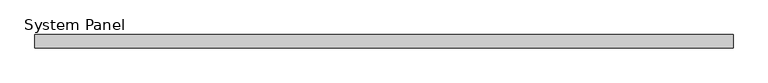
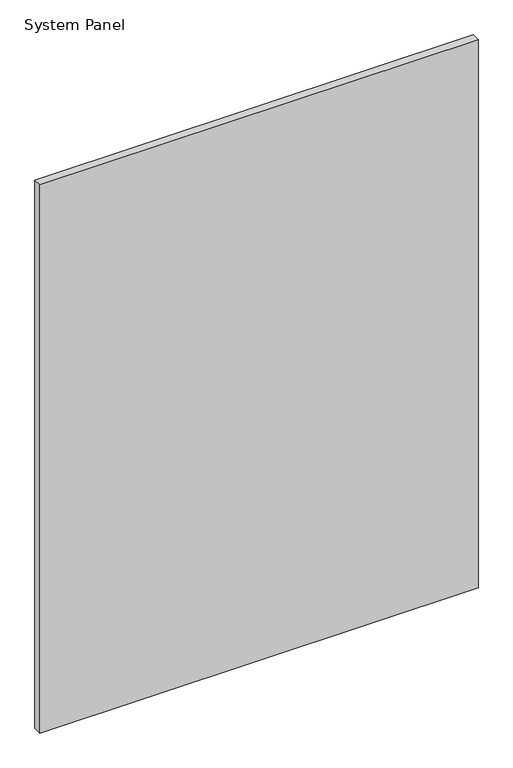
"""IFC4 building model written with IfcOpenShell, lengths in millimetres: plate geometry, System Panel : Panel_Glazed_Generic Showcase_30mm."""

from ifc_helpers import new_model, si_unit, origin, origin_with_axes, place, context, project, spatial, polyline, outline, extrude, source, transform, mapped, element, save


def system_panel_043df903(model_context):
    return source(origin(), model_context, "Body", "SweptSolid", [
        extrude(outline(polyline([(775.0, -30.0), (-775.0, -30.0), (-775.0, 0.0), (775.0, 0.0), (775.0, -30.0)])), origin_with_axes(), (0.0, 0.0, 1.0), 2050.0),
    ])


if __name__ == "__main__":
    model = new_model("IFC4")
    model_context = context("Model", 3, world=origin())
    ifc_project = project(units=[si_unit("LENGTHUNIT", "METRE", prefix="MILLI")], contexts=[model_context])
    site = spatial("IfcSite", under=ifc_project)
    building = spatial("IfcBuilding", under=site)
    placement = place(None, origin())
    system_panel_shape = system_panel_043df903(model_context)
    element("IfcPlate", 1, ObjectType="System Panel : Panel_Glazed_Generic Showcase_30mm", at=placement, inside=building, context=model_context, shape_type="MappedRepresentation", body=[
        mapped(system_panel_shape, transform((0.0, 0.0, 0.0), x_axis=(1.0, 0.0, 0.0), y_axis=(0.0, 1.0, 0.0), z_axis=(0.0, 0.0, 1.0))),
    ])
    save(model, "model.ifc")
